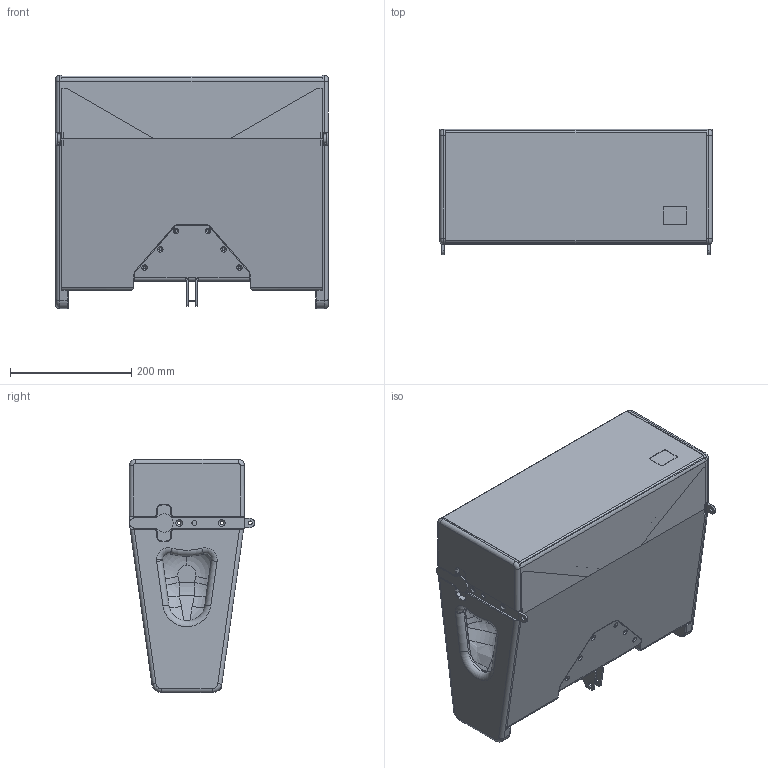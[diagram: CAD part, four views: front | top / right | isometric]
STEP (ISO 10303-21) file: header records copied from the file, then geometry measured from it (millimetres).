
FILE_DESCRIPTION (( 'STEP AP203' ), '1' );
FILE_NAME ('Galeo-S_ungelochtes-Gitter.STEP', '2016-02-25T08:45:10', ( 'Michael Anter' ), ( 'SEEBURG acoustic line GmbH' ), 'SwSTEP 2.0', 'SolidWorks 2009', '' );
FILE_SCHEMA (( 'CONFIG_CONTROL_DESIGN' ));
Length unit declared in the file: millimetre
Products named in the file (1): Galeo-S_ungelochtes-Gitter
Bounding box: 450 x 207 x 385 mm (x, y, z)
Volume: 5725542.6 mm3; surface area: 1482633.1 mm2
Topology: 25 solids, 25 shells, 1151 faces, 2984 edges, 1880 vertices
Faces by surface type: plane 511, cylinder 460, cone 92, torus 50, bspline 30, sphere 8
Entity records: 37437 total; most frequent: CARTESIAN_POINT 8318, DIRECTION 6232, ORIENTED_EDGE 5944, EDGE_CURVE 2972, AXIS2_PLACEMENT_3D 2214, VERTEX_POINT 1880, LINE 1804, VECTOR 1804
